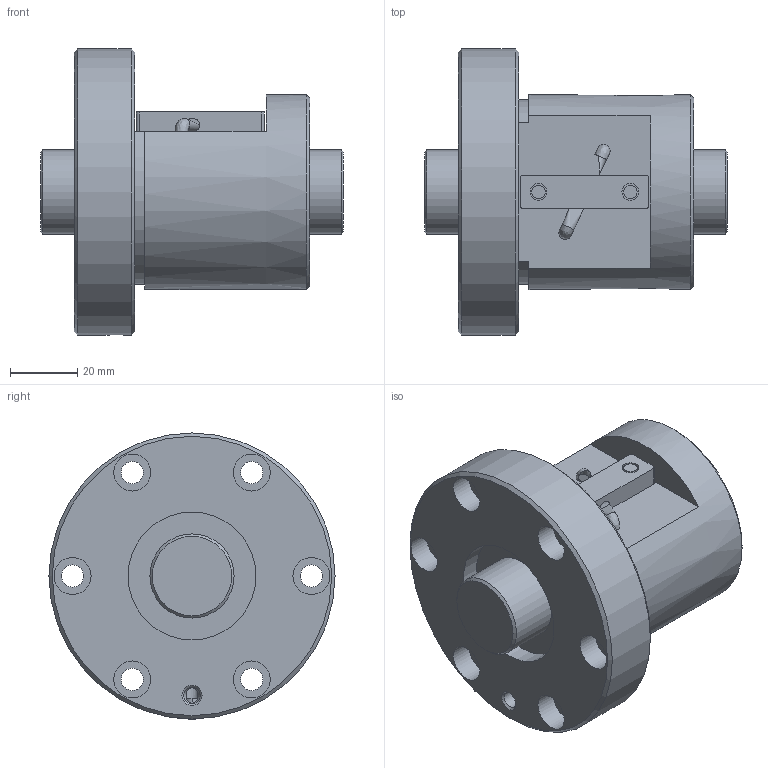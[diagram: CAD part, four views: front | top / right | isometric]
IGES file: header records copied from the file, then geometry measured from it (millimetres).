
Start section: Data from Parasolid IGES Translator 26.0.171, Copyright(c) 2006 Siemens PLM Software. All Rights Reserved.
Global section: file name: BNF2510V-2.5RRG1+90LC0_000_rev.igs; native system: By Siemens PLM Incorporated; preprocessor: XPlus GENERIC/IGES 26.0.171; author: Noname; organization: Noname; date: 20240806.072944; units: millimetre
Bounding box: 90 x 85 x 85 mm (x, y, z)
Surface area: 42692.6 mm2 (no closed solid volume)
Topology: 0 solids, 0 shells, 71 faces, 310 edges, 276 vertices
Faces by surface type: revolution 44, extrusion 27
